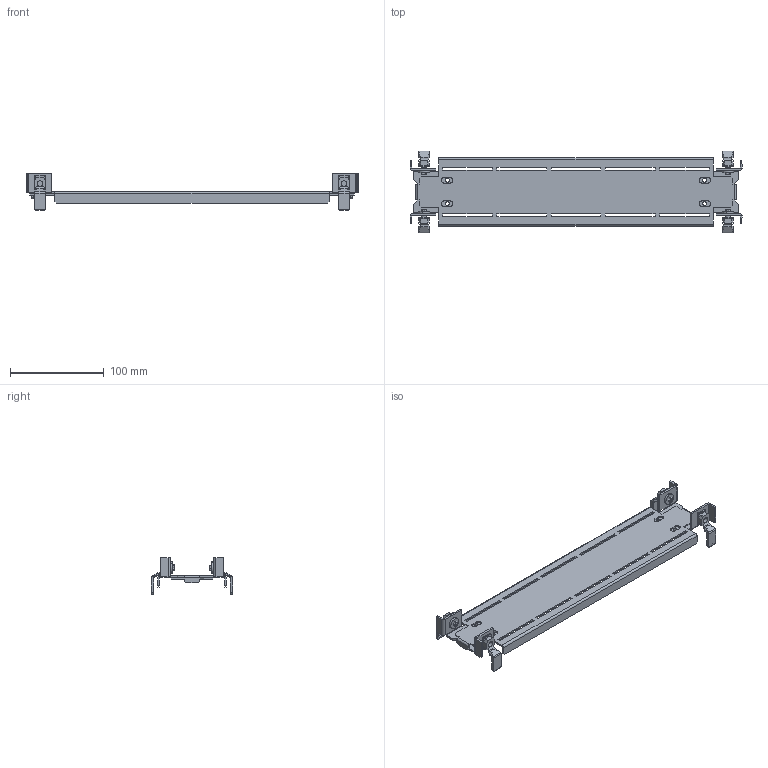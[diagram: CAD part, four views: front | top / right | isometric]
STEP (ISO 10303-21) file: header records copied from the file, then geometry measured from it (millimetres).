
FILE_DESCRIPTION(('CAx-IF Rec.Pracs.---Model Styling and Organization---1.2---2011-12-15','CAx-IF Rec.Pracs.---Geometric and Assembly Validation Properties---4.1---2014-06-16','CAx-IF Rec.Pracs.---PMI Polyline Presentation---2.0---2013-05-24'),'2;1');
FILE_NAME('R5CPB410.stp','2021-05-06T03:23:58+03:00',(''),(''),'STEP Interface 4.4 by CT CoreTechnologie','3D_Evolution4.4 by CT CoreTechnologie','');
FILE_SCHEMA(('AUTOMOTIVE_DESIGN { 1 0 10303 214 1 1 1 1 }'));
Length unit declared in the file: millimetre
Products named in the file (6): R5CPB410; RB.0546.00.00.0_-00; M6x16-DIN 7985 ISR_thread; RB.0546.00.00.0_-01; AC00C485; RB.0726.00.00.0_-00
Assembly tree (13 placements, depth 2):
  R5CPB410
    RB.0546.00.00.0_-00  x2
    M6x16-DIN 7985 ISR_thread  x4
    RB.0546.00.00.0_-01  x2
    AC00C485  x4
    RB.0726.00.00.0_-00
Bounding box: 355 x 87 x 39.05 mm (x, y, z)
Surface area: 79529.6 mm2 (no closed solid volume)
Topology: 0 solids, 21 shells, 576 faces, 1458 edges, 912 vertices
Faces by surface type: plane 324, cylinder 196, bspline 56
Entity records: 8639 total; most frequent: CARTESIAN_POINT 1873, ORIENTED_EDGE 1334, DIRECTION 1294, EDGE_CURVE 667, VECTOR 520, LINE 520, VERTEX_POINT 430, AXIS2_PLACEMENT_3D 387
